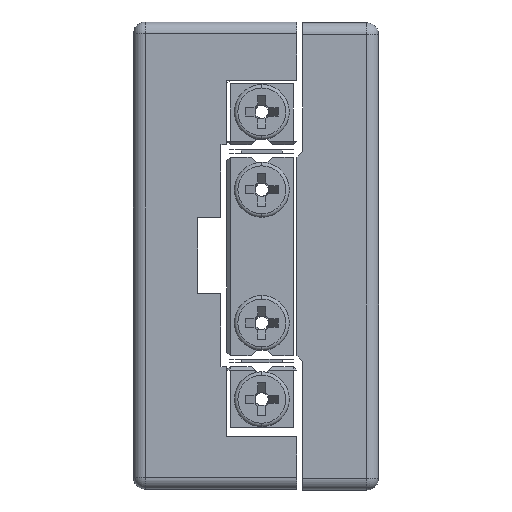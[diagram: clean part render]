
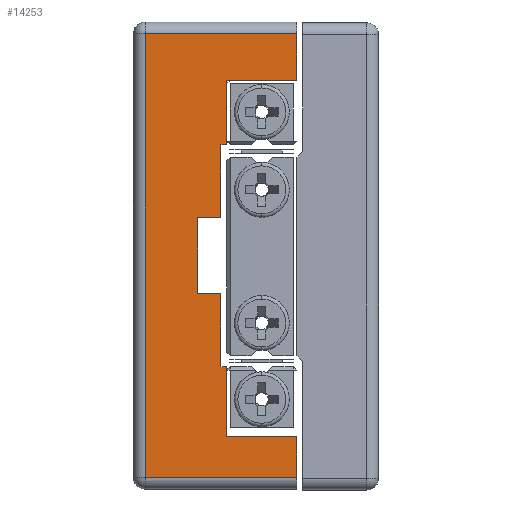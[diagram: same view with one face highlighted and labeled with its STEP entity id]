
A CAD part, left-side view. The second image highlights one B-rep face of the part: STEP entity #14253.
In plain terms, the highlighted planar face has unit normal (-1, 0, 0).
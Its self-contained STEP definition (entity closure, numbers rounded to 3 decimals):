
#1131 = LINE ( 'NONE', #18062, #1144 ) ;
#1139 = LINE ( 'NONE', #18087, #1142 ) ;
#1142 = VECTOR ( 'NONE', #18089, 1000. ) ;
#1144 = VECTOR ( 'NONE', #18090, 1000. ) ;
#1153 = LINE ( 'NONE', #18119, #1156 ) ;
#1156 = VECTOR ( 'NONE', #18120, 1000. ) ;
#1171 = LINE ( 'NONE', #18168, #1178 ) ;
#1178 = VECTOR ( 'NONE', #18161, 1000. ) ;
#1184 = LINE ( 'NONE', #18186, #1189 ) ;
#1189 = VECTOR ( 'NONE', #18180, 1000. ) ;
#1202 = LINE ( 'NONE', #18213, #1207 ) ;
#1206 = LINE ( 'NONE', #18217, #1209 ) ;
#1207 = VECTOR ( 'NONE', #18206, 1000. ) ;
#1209 = VECTOR ( 'NONE', #18218, 1000. ) ;
#1273 = LINE ( 'NONE', #18381, #1276 ) ;
#1276 = VECTOR ( 'NONE', #18383, 1000. ) ;
#1279 = LINE ( 'NONE', #18387, #1282 ) ;
#1282 = VECTOR ( 'NONE', #18388, 1000. ) ;
#1283 = LINE ( 'NONE', #18382, #1288 ) ;
#1287 = LINE ( 'NONE', #18394, #1290 ) ;
#1288 = VECTOR ( 'NONE', #18393, 1000. ) ;
#1290 = VECTOR ( 'NONE', #18395, 1000. ) ;
#1320 = LINE ( 'NONE', #18444, #1324 ) ;
#1323 = LINE ( 'NONE', #18451, #1326 ) ;
#1324 = VECTOR ( 'NONE', #18450, 1000. ) ;
#1326 = VECTOR ( 'NONE', #18452, 1000. ) ;
#1332 = LINE ( 'NONE', #18471, #1335 ) ;
#1335 = VECTOR ( 'NONE', #18485, 1000. ) ;
#1339 = LINE ( 'NONE', #18504, #1341 ) ;
#1341 = VECTOR ( 'NONE', #18488, 1000. ) ;
#1349 = LINE ( 'NONE', #18521, #1352 ) ;
#1352 = VECTOR ( 'NONE', #18503, 1000. ) ;
#3219 = CARTESIAN_POINT ( 'NONE',  ( -18.848, 6.765, -20. ) ) ;
#3221 = PLANE ( 'NONE',  #23400 ) ;
#3224 = DIRECTION ( 'NONE',  ( 1., 0., 0. ) ) ;
#3225 = DIRECTION ( 'NONE',  ( 0., 0., -1. ) ) ;
#8414 = EDGE_LOOP ( 'NONE', ( #23962, #23961, #23960, #19578, #19577, #23959, #19576, #19575, #23958, #23957, #23955, #23954, #23956, #23953, #23952, #23951 ) ) ;
#11564 = EDGE_CURVE ( 'NONE', #15275, #15291, #1139, .T. ) ;
#11565 = EDGE_CURVE ( 'NONE', #15260, #15044, #1131, .T. ) ;
#11572 = EDGE_CURVE ( 'NONE', #15548, #15282, #1153, .T. ) ;
#11588 = EDGE_CURVE ( 'NONE', #15452, #15044, #1171, .T. ) ;
#11595 = EDGE_CURVE ( 'NONE', #15263, #15452, #1184, .T. ) ;
#11606 = EDGE_CURVE ( 'NONE', #15282, #15260, #1202, .T. ) ;
#11607 = EDGE_CURVE ( 'NONE', #15275, #15258, #1206, .T. ) ;
#11654 = EDGE_CURVE ( 'NONE', #15501, #15498, #1273, .T. ) ;
#11657 = EDGE_CURVE ( 'NONE', #15258, #15501, #1279, .T. ) ;
#11660 = EDGE_CURVE ( 'NONE', #15496, #15494, #1283, .T. ) ;
#11661 = EDGE_CURVE ( 'NONE', #15498, #15496, #1287, .T. ) ;
#11683 = EDGE_CURVE ( 'NONE', #15291, #15548, #1320, .T. ) ;
#11684 = EDGE_CURVE ( 'NONE', #15541, #15506, #1323, .T. ) ;
#11692 = EDGE_CURVE ( 'NONE', #15265, #15541, #1332, .T. ) ;
#11696 = EDGE_CURVE ( 'NONE', #15506, #15263, #1339, .T. ) ;
#11703 = EDGE_CURVE ( 'NONE', #15494, #15265, #1349, .T. ) ;
#14253 = ADVANCED_FACE ( 'NONE', ( #20514 ), #3221, .F. ) ;
#15044 = VERTEX_POINT ( 'NONE', #19081 ) ;
#15258 = VERTEX_POINT ( 'NONE', #28000 ) ;
#15260 = VERTEX_POINT ( 'NONE', #28001 ) ;
#15263 = VERTEX_POINT ( 'NONE', #28003 ) ;
#15265 = VERTEX_POINT ( 'NONE', #28004 ) ;
#15275 = VERTEX_POINT ( 'NONE', #28010 ) ;
#15282 = VERTEX_POINT ( 'NONE', #28013 ) ;
#15291 = VERTEX_POINT ( 'NONE', #28018 ) ;
#15452 = VERTEX_POINT ( 'NONE', #28103 ) ;
#15494 = VERTEX_POINT ( 'NONE', #28125 ) ;
#15496 = VERTEX_POINT ( 'NONE', #28126 ) ;
#15498 = VERTEX_POINT ( 'NONE', #28127 ) ;
#15501 = VERTEX_POINT ( 'NONE', #28129 ) ;
#15506 = VERTEX_POINT ( 'NONE', #28131 ) ;
#15541 = VERTEX_POINT ( 'NONE', #28150 ) ;
#15548 = VERTEX_POINT ( 'NONE', #28154 ) ;
#18062 = CARTESIAN_POINT ( 'NONE',  ( -18.848, -7.235, -20. ) ) ;
#18087 = CARTESIAN_POINT ( 'NONE',  ( -18.848, -7.235, -20. ) ) ;
#18089 = DIRECTION ( 'NONE',  ( 0., 0., 1. ) ) ;
#18090 = DIRECTION ( 'NONE',  ( 0., 0., 1. ) ) ;
#18119 = CARTESIAN_POINT ( 'NONE',  ( -18.848, 5.765, -20. ) ) ;
#18120 = DIRECTION ( 'NONE',  ( 0., 0., -1. ) ) ;
#18161 = DIRECTION ( 'NONE',  ( 0., -1., 0. ) ) ;
#18168 = CARTESIAN_POINT ( 'NONE',  ( -18.848, -1.235, -15.5 ) ) ;
#18180 = DIRECTION ( 'NONE',  ( 0., 0., -1. ) ) ;
#18186 = CARTESIAN_POINT ( 'NONE',  ( -18.848, -1.235, -15.5 ) ) ;
#18206 = DIRECTION ( 'NONE',  ( 0., -1., 0. ) ) ;
#18213 = CARTESIAN_POINT ( 'NONE',  ( -18.848, 6.765, -19. ) ) ;
#18217 = CARTESIAN_POINT ( 'NONE',  ( -18.848, -1.235, 15. ) ) ;
#18218 = DIRECTION ( 'NONE',  ( 0., 1., 0. ) ) ;
#18381 = CARTESIAN_POINT ( 'NONE',  ( -18.848, -0.735, 9.5 ) ) ;
#18382 = CARTESIAN_POINT ( 'NONE',  ( -18.848, 1.265, 3.25 ) ) ;
#18383 = DIRECTION ( 'NONE',  ( 0., 1., 0. ) ) ;
#18387 = CARTESIAN_POINT ( 'NONE',  ( -18.848, -1.235, 9.5 ) ) ;
#18388 = DIRECTION ( 'NONE',  ( 0., 0., -1. ) ) ;
#18393 = DIRECTION ( 'NONE',  ( 0., 1., 0. ) ) ;
#18394 = CARTESIAN_POINT ( 'NONE',  ( -18.848, -0.735, 3.25 ) ) ;
#18395 = DIRECTION ( 'NONE',  ( 0., 0., -1. ) ) ;
#18444 = CARTESIAN_POINT ( 'NONE',  ( -18.848, 6.765, 19. ) ) ;
#18450 = DIRECTION ( 'NONE',  ( 0., 1., 0. ) ) ;
#18451 = CARTESIAN_POINT ( 'NONE',  ( -18.848, -0.735, -9.5 ) ) ;
#18452 = DIRECTION ( 'NONE',  ( 0., 0., -1. ) ) ;
#18471 = CARTESIAN_POINT ( 'NONE',  ( -18.848, -0.735, -3.25 ) ) ;
#18485 = DIRECTION ( 'NONE',  ( 0., -1., 0. ) ) ;
#18488 = DIRECTION ( 'NONE',  ( 0., -1., 0. ) ) ;
#18503 = DIRECTION ( 'NONE',  ( 0., 0., -1. ) ) ;
#18504 = CARTESIAN_POINT ( 'NONE',  ( -18.848, -1.235, -9.5 ) ) ;
#18521 = CARTESIAN_POINT ( 'NONE',  ( -18.848, 1.265, -3.25 ) ) ;
#19081 = CARTESIAN_POINT ( 'NONE',  ( -18.848, -7.235, -15.5 ) ) ;
#19575 = ORIENTED_EDGE ( 'NONE', *, *, #11692, .F. ) ;
#19576 = ORIENTED_EDGE ( 'NONE', *, *, #11684, .F. ) ;
#19577 = ORIENTED_EDGE ( 'NONE', *, *, #11595, .F. ) ;
#19578 = ORIENTED_EDGE ( 'NONE', *, *, #11588, .F. ) ;
#20514 = FACE_OUTER_BOUND ( 'NONE', #8414, .T. ) ;
#23400 = AXIS2_PLACEMENT_3D ( 'NONE', #3219, #3224, #3225 ) ;
#23951 = ORIENTED_EDGE ( 'NONE', *, *, #11683, .T. ) ;
#23952 = ORIENTED_EDGE ( 'NONE', *, *, #11564, .T. ) ;
#23953 = ORIENTED_EDGE ( 'NONE', *, *, #11607, .F. ) ;
#23954 = ORIENTED_EDGE ( 'NONE', *, *, #11654, .F. ) ;
#23955 = ORIENTED_EDGE ( 'NONE', *, *, #11661, .F. ) ;
#23956 = ORIENTED_EDGE ( 'NONE', *, *, #11657, .F. ) ;
#23957 = ORIENTED_EDGE ( 'NONE', *, *, #11660, .F. ) ;
#23958 = ORIENTED_EDGE ( 'NONE', *, *, #11703, .F. ) ;
#23959 = ORIENTED_EDGE ( 'NONE', *, *, #11696, .F. ) ;
#23960 = ORIENTED_EDGE ( 'NONE', *, *, #11565, .T. ) ;
#23961 = ORIENTED_EDGE ( 'NONE', *, *, #11606, .T. ) ;
#23962 = ORIENTED_EDGE ( 'NONE', *, *, #11572, .T. ) ;
#28000 = CARTESIAN_POINT ( 'NONE',  ( -18.848, -1.235, 15. ) ) ;
#28001 = CARTESIAN_POINT ( 'NONE',  ( -18.848, -7.235, -19. ) ) ;
#28003 = CARTESIAN_POINT ( 'NONE',  ( -18.848, -1.235, -9.5 ) ) ;
#28004 = CARTESIAN_POINT ( 'NONE',  ( -18.848, 1.265, -3.25 ) ) ;
#28010 = CARTESIAN_POINT ( 'NONE',  ( -18.848, -7.235, 15. ) ) ;
#28013 = CARTESIAN_POINT ( 'NONE',  ( -18.848, 5.765, -19. ) ) ;
#28018 = CARTESIAN_POINT ( 'NONE',  ( -18.848, -7.235, 19. ) ) ;
#28103 = CARTESIAN_POINT ( 'NONE',  ( -18.848, -1.235, -15.5 ) ) ;
#28125 = CARTESIAN_POINT ( 'NONE',  ( -18.848, 1.265, 3.25 ) ) ;
#28126 = CARTESIAN_POINT ( 'NONE',  ( -18.848, -0.735, 3.25 ) ) ;
#28127 = CARTESIAN_POINT ( 'NONE',  ( -18.848, -0.735, 9.5 ) ) ;
#28129 = CARTESIAN_POINT ( 'NONE',  ( -18.848, -1.235, 9.5 ) ) ;
#28131 = CARTESIAN_POINT ( 'NONE',  ( -18.848, -0.735, -9.5 ) ) ;
#28150 = CARTESIAN_POINT ( 'NONE',  ( -18.848, -0.735, -3.25 ) ) ;
#28154 = CARTESIAN_POINT ( 'NONE',  ( -18.848, 5.765, 19. ) ) ;
